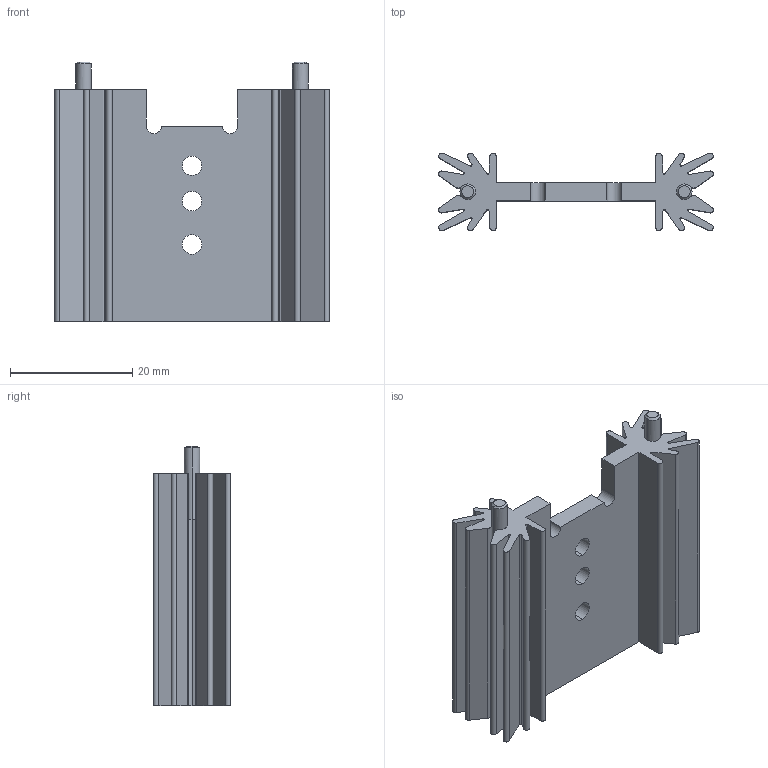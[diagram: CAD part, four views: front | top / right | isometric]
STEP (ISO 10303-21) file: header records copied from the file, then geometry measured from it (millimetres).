
FILE_DESCRIPTION (( 'STEP AP214' ), '1' );
FILE_NAME ('CUI_DEVICES_HSE-B381-045H.step', '2020-11-03T17:47:15', ( '' ), ( '' ), 'SwSTEP 2.0', 'SolidWorks 2020', '' );
FILE_SCHEMA (( 'AUTOMOTIVE_DESIGN' ));
Length unit declared in the file: inch
Products named in the file (1): CUI_DEVICES_HSE-B381-045H
Bounding box: 45 x 12.7 x 42.6 mm (x, y, z)
Volume: 8320.2 mm3; surface area: 8436.4 mm2
Topology: 1 solids, 1 shells, 105 faces, 301 edges, 198 vertices
Faces by surface type: cylinder 57, plane 44, cone 4
Entity records: 3681 total; most frequent: DIRECTION 635, CARTESIAN_POINT 605, ORIENTED_EDGE 602, EDGE_CURVE 301, AXIS2_PLACEMENT_3D 228, VERTEX_POINT 198, LINE 179, VECTOR 179
